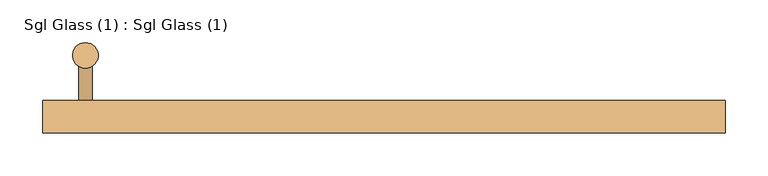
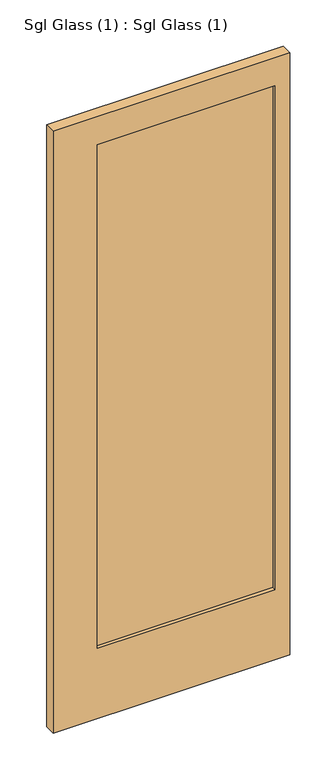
"""IFC4 building model written with IfcOpenShell, lengths in millimetres: door geometry, Sgl Glass (1) : Sgl Glass (1)."""

import ifcopenshell
import ifcopenshell.guid

model = None  # the IFC model being written
_history = None  # IfcOwnerHistory: only IFC2X3 demands one
_inside = {}  # id of a spatial element -> (the spatial element, [elements in it])
_under = {}  # id of a project, library or spatial element -> (it, [spatial elements below it])
_declared = {}  # id of a project -> (the project, [libraries it declares])
_typed = {}  # id of a type object -> (the type object, [elements of that type])
_made_of = {}  # id of a material, layer set ... -> (it, [elements and type objects made of it])


def new_model(schema):
    """Start an empty IFC model of exactly this schema.

    Asked for "IFC4X3", IfcOpenShell would pick the latest addendum, in which some entities
    have other attributes; the version numbers below select the first issue.
    IFC2X3 requires an IfcOwnerHistory on every rooted entity: one is made here for all.
    """
    global model, _history
    if schema == "IFC4X3":
        model = ifcopenshell.file(schema_version=(4, 3, 0, 0))
    else:
        model = ifcopenshell.file(schema=schema)
    _inside.clear()
    _under.clear()
    _declared.clear()
    _typed.clear()
    _made_of.clear()
    _history = None
    if model.schema == "IFC2X3":
        org = make("IfcOrganization", Name="unknown")
        user = make(
            "IfcPersonAndOrganization",
            ThePerson=make("IfcPerson", FamilyName="unknown"),
            TheOrganization=org,
        )
        app = make(
            "IfcApplication",
            ApplicationDeveloper=org,
            Version="unknown",
            ApplicationFullName="unknown",
            ApplicationIdentifier="unknown",
        )
        _history = make(
            "IfcOwnerHistory",
            OwningUser=user,
            OwningApplication=app,
            ChangeAction="ADDED",
            CreationDate=0,
        )
    return model


def make(cls, **values):
    """One entity of the class cls with the attributes given. An attribute that is None is left unset."""
    return model.create_entity(
        cls, **{name: value for name, value in values.items() if value is not None}
    )


def rooted(cls, **values):
    """An entity with a GlobalId (a new one), such as an element, a storey or a relation."""
    return make(cls, GlobalId=ifcopenshell.guid.new(), OwnerHistory=_history, **values)


def si_unit(unit_type, name, prefix=None):
    """IfcSIUnit, for example si_unit("LENGTHUNIT", "METRE", prefix="MILLI")."""
    return make("IfcSIUnit", UnitType=unit_type, Prefix=prefix, Name=name)


def assignment(units):
    """IfcUnitAssignment: the units of a project."""
    return None if units is None else make("IfcUnitAssignment", Units=units)


def point(xyz):
    """IfcCartesianPoint."""
    return None if xyz is None else make("IfcCartesianPoint", Coordinates=xyz)


def direction(xyz):
    """IfcDirection."""
    return None if xyz is None else make("IfcDirection", DirectionRatios=xyz)


def frame(location, z_axis=None, x_axis=None):
    """IfcAxis2Placement3D, a coordinate frame: its origin and axes. An axis left out is left unset."""
    return make(
        "IfcAxis2Placement3D",
        Location=point(location),
        Axis=direction(z_axis),
        RefDirection=direction(x_axis),
    )


def frame_2d(location, x_axis=None):
    """IfcAxis2Placement2D, a coordinate frame in the plane: its origin and x axis."""
    return make(
        "IfcAxis2Placement2D", Location=point(location), RefDirection=direction(x_axis)
    )


def origin():
    """The frame at (0, 0, 0) with its axes left unset."""
    return frame((0.0, 0.0, 0.0))


def place(relative_to, where):
    """IfcLocalPlacement: puts the frame where relative to a parent placement (None: the world)."""
    return make(
        "IfcLocalPlacement", PlacementRelTo=relative_to, RelativePlacement=where
    )


def context(
    kind, dimensions, precision=None, world=None, true_north=None, identifier=None
):
    """IfcGeometricRepresentationContext, for example the 3D "Model" context."""
    return make(
        "IfcGeometricRepresentationContext",
        ContextIdentifier=identifier,
        ContextType=kind,
        CoordinateSpaceDimension=dimensions,
        Precision=precision,
        WorldCoordinateSystem=world,
        TrueNorth=true_north,
    )


def project(units=None, contexts=None):
    """IfcProject with its units and contexts."""
    return rooted(
        "IfcProject",
        Name="project",
        RepresentationContexts=contexts,
        UnitsInContext=assignment(units),
    )


def spatial(cls, under=None, at=None, **own):
    """A site, building, storey or space (cls), placed at a placement, below another one or the project."""
    s = rooted(cls, ObjectPlacement=at, **own)
    if under is not None:
        _under.setdefault(under.id(), (under, []))[1].append(s)
    return s


def polyline(points):
    """IfcPolyline through the points."""
    return make("IfcPolyline", Points=[point(p) for p in points])


def circle_curve(where, radius):
    """IfcCircle in the frame where."""
    return make("IfcCircle", Position=where, Radius=radius)


def trimmed(basis, trim1, trim2, sense, master):
    """IfcTrimmedCurve: the piece of a basis curve between two trims."""
    return make(
        "IfcTrimmedCurve",
        BasisCurve=basis,
        Trim1=trim1,
        Trim2=trim2,
        SenseAgreement=sense,
        MasterRepresentation=master,
    )


def segment(curve, same_sense, transition):
    """IfcCompositeCurveSegment."""
    return make(
        "IfcCompositeCurveSegment",
        Transition=transition,
        SameSense=same_sense,
        ParentCurve=curve,
    )


def composite_curve(segments, self_intersect=None):
    """IfcCompositeCurve: segments joined end to end."""
    return make("IfcCompositeCurve", Segments=segments, SelfIntersect=self_intersect)


def outline(outer, holes=None, kind="AREA"):
    """IfcArbitraryClosedProfileDef: a profile drawn as a closed curve; with holes, ...WithVoids."""
    if holes is None:
        return make("IfcArbitraryClosedProfileDef", ProfileType=kind, OuterCurve=outer)
    return make(
        "IfcArbitraryProfileDefWithVoids",
        ProfileType=kind,
        OuterCurve=outer,
        InnerCurves=holes,
    )


def extrude(swept, where, along, depth):
    """IfcExtrudedAreaSolid: the profile swept, set in the frame where, extruded along a direction by depth."""
    return make(
        "IfcExtrudedAreaSolid",
        SweptArea=swept,
        Position=where,
        ExtrudedDirection=direction(along),
        Depth=depth,
    )


def shape(context_of_items, identifier, shape_type, items):
    """IfcShapeRepresentation: the items that make up one representation, for example the "Body"."""
    return make(
        "IfcShapeRepresentation",
        ContextOfItems=context_of_items,
        RepresentationIdentifier=identifier,
        RepresentationType=shape_type,
        Items=items,
    )


def source(mapping_origin, context_of_items, identifier, shape_type, items):
    """IfcRepresentationMap: a shape defined once, which mapped items show again and again."""
    return make(
        "IfcRepresentationMap",
        MappingOrigin=mapping_origin,
        MappedRepresentation=shape(context_of_items, identifier, shape_type, items),
    )


def transform(
    local_origin,
    x_axis=None,
    y_axis=None,
    z_axis=None,
    scale=None,
    scale2=None,
    scale3=None,
    uniform=True,
):
    """IfcCartesianTransformationOperator3D, or its non-uniform kind. x_axis, y_axis, z_axis: its Axis1, 2, 3."""
    if uniform:
        return make(
            "IfcCartesianTransformationOperator3D",
            Axis1=direction(x_axis),
            Axis2=direction(y_axis),
            LocalOrigin=point(local_origin),
            Scale=scale,
            Axis3=direction(z_axis),
        )
    return make(
        "IfcCartesianTransformationOperator3DnonUniform",
        Axis1=direction(x_axis),
        Axis2=direction(y_axis),
        LocalOrigin=point(local_origin),
        Scale=scale,
        Axis3=direction(z_axis),
        Scale2=scale2,
        Scale3=scale3,
    )


def mapped(mapping_source, mapping_target):
    """IfcMappedItem: shows the shape of a source again, moved by a transform."""
    return make(
        "IfcMappedItem", MappingSource=mapping_source, MappingTarget=mapping_target
    )


def made_of(thing, what):
    """Note that an element or type object is made of a material, layer set ...; save() writes the relation."""
    if what is not None:
        _made_of.setdefault(what.id(), (what, []))[1].append(thing)
    return thing


def element(
    cls,
    number,
    at=None,
    inside=None,
    cuts=None,
    type_object=None,
    material=None,
    context=None,
    identifier="Body",
    shape_type=None,
    held_by="IfcProductDefinitionShape",
    body=None,
    shapes=None,
    **own,
):
    """One element of the class cls, such as IfcWall. Its Tag is "e" and its number.

    at: its placement. inside: the storey or other place that contains it. cuts: it is an
    opening in that element (IfcRelVoidsElement). A single representation is given by context,
    identifier, shape_type and body (its items); several are given by shapes. held_by: the class
    of the entity that holds the representations. save() writes the other relations.
    """
    e = rooted(cls, Tag="e%d" % number, ObjectPlacement=at, **own)
    if body is not None:
        shapes = [shape(context, identifier, shape_type, body)]
    if shapes is not None:
        e.Representation = make(held_by, Representations=shapes)
    if inside is not None:
        _inside.setdefault(inside.id(), (inside, []))[1].append(e)
    if cuts is not None:
        rooted(
            "IfcRelVoidsElement", RelatingBuildingElement=cuts, RelatedOpeningElement=e
        )
    if type_object is not None:
        _typed.setdefault(type_object.id(), (type_object, []))[1].append(e)
    return made_of(e, material)


def aggregate(whole, parts):
    """IfcRelAggregates: a whole, such as a stair, and the parts it consists of."""
    return rooted("IfcRelAggregates", RelatingObject=whole, RelatedObjects=parts)


def save(model, path):
    """Write the relations noted so far, then the file.

    IfcRelAggregates (storeys below a building ...), IfcRelContainedInSpatialStructure (elements
    in a storey), IfcRelDefinesByType, IfcRelAssociatesMaterial and IfcRelDeclares: one each for
    every whole, place, type object, material and project.
    """
    for whole, parts in _under.values():
        aggregate(whole, parts)
    for where, things in _inside.values():
        rooted(
            "IfcRelContainedInSpatialStructure",
            RelatedElements=things,
            RelatingStructure=where,
        )
    for kind, things in _typed.values():
        rooted("IfcRelDefinesByType", RelatedObjects=things, RelatingType=kind)
    for what, things in _made_of.values():
        rooted("IfcRelAssociatesMaterial", RelatedObjects=things, RelatingMaterial=what)
    for by, libraries in _declared.values():
        rooted("IfcRelDeclares", RelatingContext=by, RelatedDefinitions=libraries)
    model.write(path)


def sgl_glass_1_sgl_glass_1_8a55110c(model_context):
    return source(origin(), model_context, "Body", "SweptSolid", [
        extrude(outline(polyline([(350.0, -2.0), (350.0, -12.0), (-325.0, -12.0), (-325.0, -2.0), (350.0, -2.0)])), frame((0.0, 0.0, 250.0), z_axis=(0.0, 0.0, 1.0), x_axis=(1.0, 0.0, 0.0)), (0.0, 0.0, 1.0), 1800.0),
        extrude(outline(composite_curve([segment(trimmed(circle_curve(frame_2d((-350.0, 66.0)), 15.0), [point((-350.0, 51.0))], [point((-350.0, 81.0))], False, "CARTESIAN"), True, "CONTINUOUS"), segment(trimmed(circle_curve(frame_2d((-350.0, 66.0)), 15.0), [point((-350.0, 81.0))], [point((-350.0, 51.0))], False, "CARTESIAN"), True, "CONTINUOUS")], self_intersect=False)), frame((0.0, 0.0, 650.0), z_axis=(0.0, 0.0, 1.0), x_axis=(1.0, 0.0, 0.0)), (0.0, 0.0, 1.0), 900.0),
        extrude(outline(composite_curve([segment(trimmed(circle_curve(frame_2d((750.0, -350.0)), 8.0), [point((750.0, -342.0))], [point((750.0, -358.0))], False, "CARTESIAN"), True, "CONTINUOUS"), segment(trimmed(circle_curve(frame_2d((750.0, -350.0)), 8.0), [point((750.0, -358.0))], [point((750.0, -342.0))], False, "CARTESIAN"), True, "CONTINUOUS")], self_intersect=False)), frame((0.0, 13.0, 0.0), z_axis=(0.0, 1.0, 0.0), x_axis=(0.0, 0.0, 1.0)), (0.0, 0.0, 1.0), 53.0),
        extrude(outline(composite_curve([segment(trimmed(circle_curve(frame_2d((1450.0, -350.0)), 8.0), [point((1450.0, -342.0))], [point((1450.0, -358.0))], False, "CARTESIAN"), True, "CONTINUOUS"), segment(trimmed(circle_curve(frame_2d((1450.0, -350.0)), 8.0), [point((1450.0, -358.0))], [point((1450.0, -342.0))], False, "CARTESIAN"), True, "CONTINUOUS")], self_intersect=False)), frame((0.0, 13.0, 0.0), z_axis=(0.0, 1.0, 0.0), x_axis=(0.0, 0.0, 1.0)), (0.0, 0.0, 1.0), 53.0),
        extrude(outline(polyline([(0.0, -400.0), (0.0, 400.0), (2150.0, 400.0), (2150.0, -400.0), (0.0, -400.0)]), holes=[polyline([(2050.0, 350.0), (250.0, 350.0), (250.0, -250.0), (2050.0, -250.0), (2050.0, 350.0)])]), frame((0.0, -25.0, 0.0), z_axis=(0.0, 1.0, 0.0), x_axis=(0.0, 0.0, 1.0)), (0.0, 0.0, 1.0), 38.0),
    ])


if __name__ == "__main__":
    model = new_model("IFC4")
    model_context = context("Model", 3, world=origin())
    ifc_project = project(units=[si_unit("LENGTHUNIT", "METRE", prefix="MILLI")], contexts=[model_context])
    site = spatial("IfcSite", under=ifc_project)
    building = spatial("IfcBuilding", under=site)
    placement = place(None, origin())
    sgl_glass_1_sgl_glass_1_shape = sgl_glass_1_sgl_glass_1_8a55110c(model_context)
    element("IfcDoor", 1, ObjectType="Sgl Glass (1) : Sgl Glass (1)", at=placement, inside=building, context=model_context, shape_type="MappedRepresentation", body=[
        mapped(sgl_glass_1_sgl_glass_1_shape, transform((0.0, 0.0, 0.0), x_axis=(1.0, 0.0, 0.0), y_axis=(0.0, 1.0, 0.0), z_axis=(0.0, 0.0, 1.0))),
    ])
    save(model, "model.ifc")
